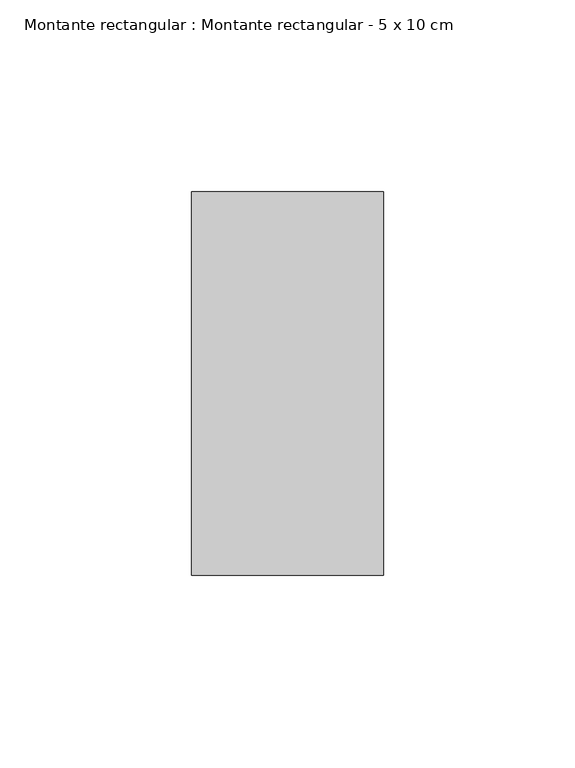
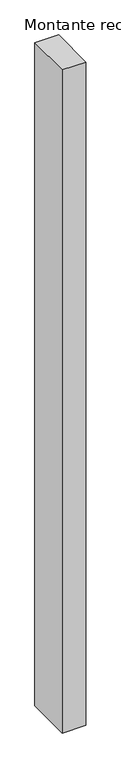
"""IFC4 building model written with IfcOpenShell, lengths in millimetres: member geometry, Montante rectangular : Montante rectangular - 5 x 10 cm."""

from ifc_helpers import new_model, si_unit, frame, origin, place, context, project, spatial, polyline, outline, extrude, source, transform, mapped, element, save


def montante_rectangular_montante_rectangular_5_x_10_cm_8ddf1db2(model_context):
    return source(origin(), model_context, "Body", "SweptSolid", [
        extrude(outline(polyline([(25.0, 50.0), (25.0, -50.0), (-25.0, -50.0), (-25.0, 50.0), (25.0, 50.0)])), frame((0.0, 0.0, -1479.0268354), z_axis=(0.0, 0.0, 1.0), x_axis=(1.0, 0.0, 0.0)), (0.0, 0.0, 1.0), 1479.0268354),
    ])


if __name__ == "__main__":
    model = new_model("IFC4")
    model_context = context("Model", 3, world=origin())
    ifc_project = project(units=[si_unit("LENGTHUNIT", "METRE", prefix="MILLI")], contexts=[model_context])
    site = spatial("IfcSite", under=ifc_project)
    building = spatial("IfcBuilding", under=site)
    placement = place(None, origin())
    montante_rectangular_montante_rectangular_5_x_10_cm_shape = montante_rectangular_montante_rectangular_5_x_10_cm_8ddf1db2(model_context)
    element("IfcMember", 1, ObjectType="Montante rectangular : Montante rectangular - 5 x 10 cm", at=placement, inside=building, context=model_context, shape_type="MappedRepresentation", body=[
        mapped(montante_rectangular_montante_rectangular_5_x_10_cm_shape, transform((0.0, 0.0, 0.0), x_axis=(1.0, 0.0, 0.0), y_axis=(0.0, 1.0, 0.0), z_axis=(0.0, 0.0, 1.0))),
    ])
    save(model, "model.ifc")
